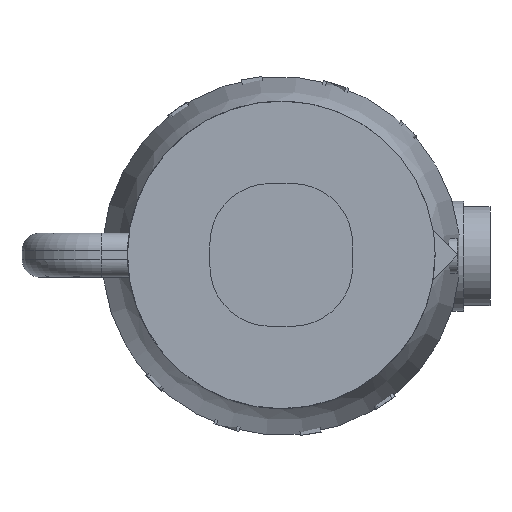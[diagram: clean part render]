
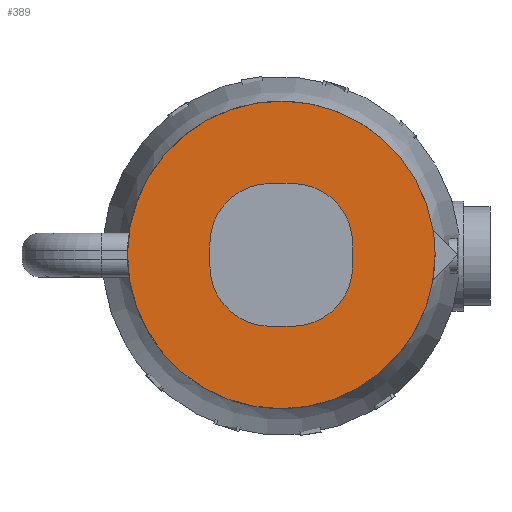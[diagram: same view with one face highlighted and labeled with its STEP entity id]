
A CAD part, top view. The second image highlights one B-rep face of the part: STEP entity #389.
In plain terms, the highlighted planar face has unit normal (0, 0, 1).
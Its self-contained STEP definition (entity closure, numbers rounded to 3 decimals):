
#68=FACE_BOUND('',#943,.T.);
#69=FACE_BOUND('',#944,.T.);
#315=CIRCLE('',#3658,70.);
#316=CIRCLE('',#3659,27.5);
#317=CIRCLE('',#3660,27.5);
#318=CIRCLE('',#3661,27.5);
#319=CIRCLE('',#3662,27.5);
#389=ADVANCED_FACE('',(#68,#69),#582,.T.);
#582=PLANE('',#3663);
#943=EDGE_LOOP('',(#1636));
#944=EDGE_LOOP('',(#1637,#1638,#1639,#1640,#1641,#1642,#1643,#1644));
#1168=LINE('',#4868,#1346);
#1169=LINE('',#4873,#1347);
#1170=LINE('',#4877,#1348);
#1171=LINE('',#4881,#1349);
#1346=VECTOR('',#3999,1.);
#1347=VECTOR('',#4002,1.);
#1348=VECTOR('',#4005,1.);
#1349=VECTOR('',#4008,1.);
#1636=ORIENTED_EDGE('',*,*,#2902,.T.);
#1637=ORIENTED_EDGE('',*,*,#2903,.T.);
#1638=ORIENTED_EDGE('',*,*,#2904,.T.);
#1639=ORIENTED_EDGE('',*,*,#2905,.T.);
#1640=ORIENTED_EDGE('',*,*,#2906,.T.);
#1641=ORIENTED_EDGE('',*,*,#2907,.T.);
#1642=ORIENTED_EDGE('',*,*,#2908,.T.);
#1643=ORIENTED_EDGE('',*,*,#2909,.T.);
#1644=ORIENTED_EDGE('',*,*,#2910,.T.);
#2554=VERTEX_POINT('',#4867);
#2555=VERTEX_POINT('',#4869);
#2556=VERTEX_POINT('',#4870);
#2557=VERTEX_POINT('',#4872);
#2558=VERTEX_POINT('',#4874);
#2559=VERTEX_POINT('',#4876);
#2560=VERTEX_POINT('',#4878);
#2561=VERTEX_POINT('',#4880);
#2562=VERTEX_POINT('',#4882);
#2902=EDGE_CURVE('',#2554,#2554,#315,.T.);
#2903=EDGE_CURVE('',#2555,#2556,#1168,.T.);
#2904=EDGE_CURVE('',#2556,#2557,#316,.T.);
#2905=EDGE_CURVE('',#2557,#2558,#1169,.T.);
#2906=EDGE_CURVE('',#2558,#2559,#317,.T.);
#2907=EDGE_CURVE('',#2559,#2560,#1170,.T.);
#2908=EDGE_CURVE('',#2560,#2561,#318,.T.);
#2909=EDGE_CURVE('',#2561,#2562,#1171,.T.);
#2910=EDGE_CURVE('',#2562,#2555,#319,.T.);
#3658=AXIS2_PLACEMENT_3D('',#4866,#3997,#3998);
#3659=AXIS2_PLACEMENT_3D('',#4871,#4000,#4001);
#3660=AXIS2_PLACEMENT_3D('',#4875,#4003,#4004);
#3661=AXIS2_PLACEMENT_3D('',#4879,#4006,#4007);
#3662=AXIS2_PLACEMENT_3D('',#4883,#4009,#4010);
#3663=AXIS2_PLACEMENT_3D('',#4884,#4011,#4012);
#3997=DIRECTION('',(0.,0.,1.));
#3998=DIRECTION('',(1.,0.,0.));
#3999=DIRECTION('',(-1.,0.,0.));
#4000=DIRECTION('',(0.,0.,-1.));
#4001=DIRECTION('',(1.,0.,0.));
#4002=DIRECTION('',(0.,1.,0.));
#4003=DIRECTION('',(0.,0.,-1.));
#4004=DIRECTION('',(1.,0.,0.));
#4005=DIRECTION('',(1.,0.,0.));
#4006=DIRECTION('',(0.,0.,-1.));
#4007=DIRECTION('',(1.,0.,0.));
#4008=DIRECTION('',(0.,-1.,0.));
#4009=DIRECTION('',(0.,0.,-1.));
#4010=DIRECTION('',(1.,0.,0.));
#4011=DIRECTION('',(0.,0.,1.));
#4012=DIRECTION('',(1.,0.,0.));
#4866=CARTESIAN_POINT('',(-110.,0.,458.9));
#4867=CARTESIAN_POINT('',(-40.,0.,458.9));
#4868=CARTESIAN_POINT('',(-110.,-32.5,458.9));
#4869=CARTESIAN_POINT('',(-105.,-32.5,458.9));
#4870=CARTESIAN_POINT('',(-115.,-32.5,458.9));
#4871=CARTESIAN_POINT('',(-115.,-5.,458.9));
#4872=CARTESIAN_POINT('',(-142.5,-5.,458.9));
#4873=CARTESIAN_POINT('',(-142.5,0.,458.9));
#4874=CARTESIAN_POINT('',(-142.5,5.,458.9));
#4875=CARTESIAN_POINT('',(-115.,5.,458.9));
#4876=CARTESIAN_POINT('',(-115.,32.5,458.9));
#4877=CARTESIAN_POINT('',(-110.,32.5,458.9));
#4878=CARTESIAN_POINT('',(-105.,32.5,458.9));
#4879=CARTESIAN_POINT('',(-105.,5.,458.9));
#4880=CARTESIAN_POINT('',(-77.5,5.,458.9));
#4881=CARTESIAN_POINT('',(-77.5,0.,458.9));
#4882=CARTESIAN_POINT('',(-77.5,-5.,458.9));
#4883=CARTESIAN_POINT('',(-105.,-5.,458.9));
#4884=CARTESIAN_POINT('',(-110.,0.,458.9));
